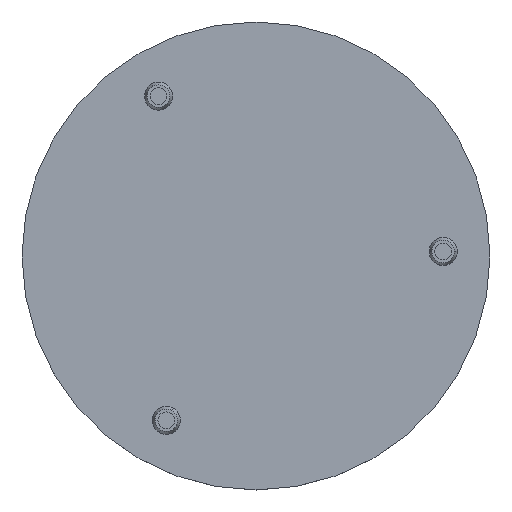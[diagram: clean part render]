
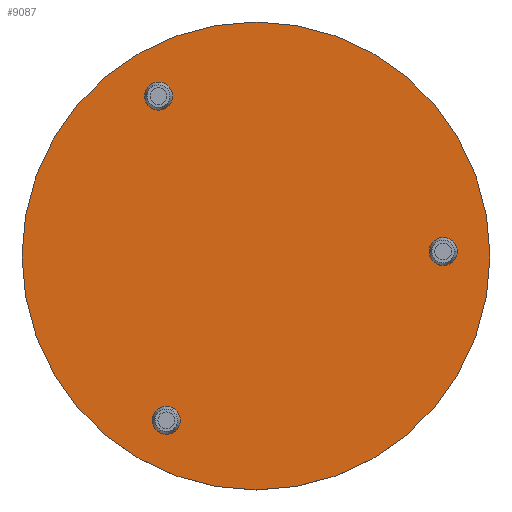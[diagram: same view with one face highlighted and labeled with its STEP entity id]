
A CAD part, top view. The second image highlights one B-rep face of the part: STEP entity #9087.
In plain terms, the highlighted planar face has unit normal (0, 0, 1) as drawn and (0, -1, 0) by its records, which use the part's own axes.
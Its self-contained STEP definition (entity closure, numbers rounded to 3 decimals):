
#9004=CARTESIAN_POINT('',(0.,0.,0.));
#9005=DIRECTION('',(0.,1.,0.));
#9006=DIRECTION('',(1.,0.,0.));
#9007=AXIS2_PLACEMENT_3D('',#9004,#9005,#9006);
#9009=CARTESIAN_POINT('',(0.,0.,0.));
#9010=DIRECTION('',(0.,1.,0.));
#9011=DIRECTION('',(-1.,0.,0.));
#9012=AXIS2_PLACEMENT_3D('',#9009,#9010,#9011);
#9060=CARTESIAN_POINT('',(125.,0.,0.));
#9061=CARTESIAN_POINT('',(-125.,0.,0.));
#9062=VERTEX_POINT('',#9060);
#9063=VERTEX_POINT('',#9061);
#9076=CARTESIAN_POINT('',(0.,0.,0.));
#9077=DIRECTION('',(0.,1.,0.));
#9078=DIRECTION('',(1.,0.,0.));
#9079=AXIS2_PLACEMENT_3D('',#9076,#9077,#9078);
#9080=PLANE('',#9079);
#9082=ORIENTED_EDGE('',*,*,#9081,.T.);
#9084=ORIENTED_EDGE('',*,*,#9083,.T.);
#9085=EDGE_LOOP('',(#9082,#9084));
#9086=FACE_OUTER_BOUND('',#9085,.F.);
#9008=CIRCLE('',#9007,125.);
#9013=CIRCLE('',#9012,125.);
#9081=EDGE_CURVE('',#9062,#9063,#9008,.T.);
#9083=EDGE_CURVE('',#9063,#9062,#9013,.T.);
#9087=ADVANCED_FACE('',(#9086),#9080,.F.);
